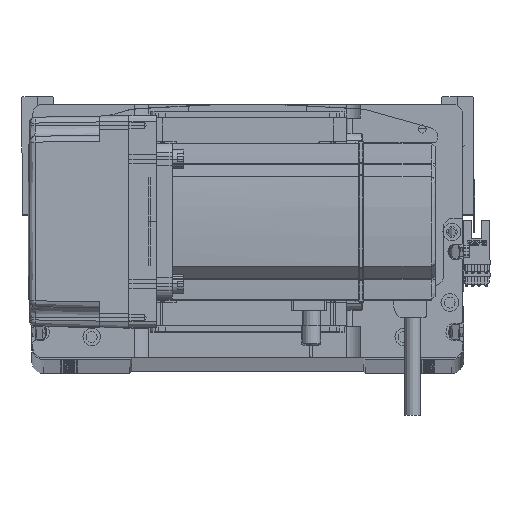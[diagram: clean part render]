
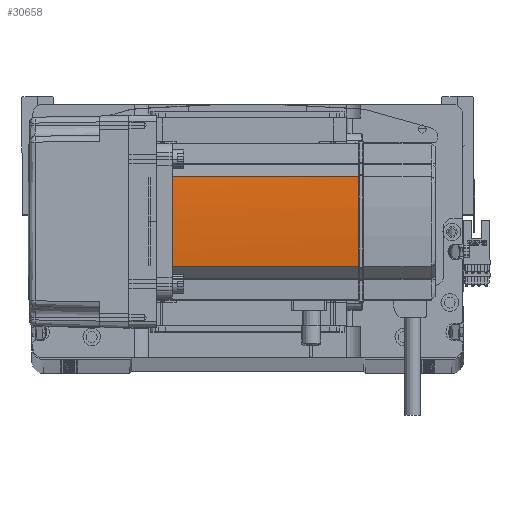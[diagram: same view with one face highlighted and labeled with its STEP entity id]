
A CAD part, top view. The second image highlights one B-rep face of the part: STEP entity #30658.
In plain terms, the highlighted cylindrical face has radius 270 mm (diameter 540 mm), a partial arc.
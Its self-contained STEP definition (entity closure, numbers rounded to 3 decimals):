
#513 = EDGE_CURVE ( 'NONE', #28971, #24461, #48217, .T. ) ;
#970 = LINE ( 'NONE', #1439, #46811 ) ;
#1026 = DIRECTION ( 'NONE',  ( 0., 0., -1. ) ) ;
#1439 = CARTESIAN_POINT ( 'NONE',  ( 39.042, -22.724, 58. ) ) ;
#2355 = CIRCLE ( 'NONE', #29261, 270. ) ;
#3759 = DIRECTION ( 'NONE',  ( -1., 0., 0. ) ) ;
#4709 = CARTESIAN_POINT ( 'NONE',  ( 40., 0.042, 134. ) ) ;
#4720 = EDGE_CURVE ( 'NONE', #28971, #29778, #23576, .T. ) ;
#5696 = VERTEX_POINT ( 'NONE', #11257 ) ;
#7062 = ORIENTED_EDGE ( 'NONE', *, *, #58252, .T. ) ;
#7622 = B_SPLINE_CURVE_WITH_KNOTS ( 'NONE', 3,
 ( #57391, #14138, #4709, #28596 ),
 .UNSPECIFIED., .F., .F.,
 ( 4, 4 ),
 ( 0., 1. ),
 .UNSPECIFIED. ) ;
#8329 = DIRECTION ( 'NONE',  ( 0., 0., -1. ) ) ;
#9104 = VERTEX_POINT ( 'NONE', #59427 ) ;
#9176 = EDGE_LOOP ( 'NONE', ( #9714, #20395, #27117, #7062, #52888, #16604 ) ) ;
#9714 = ORIENTED_EDGE ( 'NONE', *, *, #38607, .T. ) ;
#10992 = AXIS2_PLACEMENT_3D ( 'NONE', #12559, #8329, #32065 ) ;
#11257 = CARTESIAN_POINT ( 'NONE',  ( 39.042, -22.724, 134. ) ) ;
#11348 = EDGE_CURVE ( 'NONE', #19099, #9104, #7622, .T. ) ;
#11572 = VECTOR ( 'NONE', #27970, 1000. ) ;
#12559 = CARTESIAN_POINT ( 'NONE',  ( -230., 0., 134. ) ) ;
#13856 = CARTESIAN_POINT ( 'NONE',  ( 40., -0.127, 134. ) ) ;
#14138 = CARTESIAN_POINT ( 'NONE',  ( 40., -0.042, 134. ) ) ;
#16604 = ORIENTED_EDGE ( 'NONE', *, *, #33966, .T. ) ;
#16882 = DIRECTION ( 'NONE',  ( 0., 0., -1. ) ) ;
#19099 = VERTEX_POINT ( 'NONE', #13856 ) ;
#20238 = CARTESIAN_POINT ( 'NONE',  ( 39.042, 22.724, 39. ) ) ;
#20395 = ORIENTED_EDGE ( 'NONE', *, *, #513, .F. ) ;
#23576 = LINE ( 'NONE', #56779, #11572 ) ;
#24461 = VERTEX_POINT ( 'NONE', #48221 ) ;
#26947 = CARTESIAN_POINT ( 'NONE',  ( -230., 0., 39. ) ) ;
#27117 = ORIENTED_EDGE ( 'NONE', *, *, #4720, .T. ) ;
#27970 = DIRECTION ( 'NONE',  ( 0., 0., 1. ) ) ;
#28596 = CARTESIAN_POINT ( 'NONE',  ( 40., 0.127, 134. ) ) ;
#28971 = VERTEX_POINT ( 'NONE', #20238 ) ;
#29261 = AXIS2_PLACEMENT_3D ( 'NONE', #29422, #39161, #43984 ) ;
#29422 = CARTESIAN_POINT ( 'NONE',  ( -230., 0., 134. ) ) ;
#29778 = VERTEX_POINT ( 'NONE', #47426 ) ;
#30658 = ADVANCED_FACE ( 'NONE', ( #46153 ), #46084, .T. ) ;
#31535 = CIRCLE ( 'NONE', #10992, 270. ) ;
#32065 = DIRECTION ( 'NONE',  ( -1., 0., 0. ) ) ;
#33966 = EDGE_CURVE ( 'NONE', #19099, #5696, #31535, .T. ) ;
#38607 = EDGE_CURVE ( 'NONE', #5696, #24461, #970, .T. ) ;
#39161 = DIRECTION ( 'NONE',  ( 0., 0., -1. ) ) ;
#43984 = DIRECTION ( 'NONE',  ( -1., 0., 0. ) ) ;
#44925 = AXIS2_PLACEMENT_3D ( 'NONE', #26947, #16882, #55749 ) ;
#46084 = CYLINDRICAL_SURFACE ( 'NONE', #53560, 270. ) ;
#46153 = FACE_OUTER_BOUND ( 'NONE', #9176, .T. ) ;
#46811 = VECTOR ( 'NONE', #1026, 1000. ) ;
#47426 = CARTESIAN_POINT ( 'NONE',  ( 39.042, 22.724, 134. ) ) ;
#48217 = CIRCLE ( 'NONE', #44925, 270. ) ;
#48221 = CARTESIAN_POINT ( 'NONE',  ( 39.042, -22.724, 39. ) ) ;
#51233 = CARTESIAN_POINT ( 'NONE',  ( -230., 0., 58. ) ) ;
#52888 = ORIENTED_EDGE ( 'NONE', *, *, #11348, .F. ) ;
#53560 = AXIS2_PLACEMENT_3D ( 'NONE', #51233, #55865, #3759 ) ;
#55749 = DIRECTION ( 'NONE',  ( -1., 0., 0. ) ) ;
#55865 = DIRECTION ( 'NONE',  ( 0., 0., -1. ) ) ;
#56779 = CARTESIAN_POINT ( 'NONE',  ( 39.042, 22.724, 58. ) ) ;
#57391 = CARTESIAN_POINT ( 'NONE',  ( 40., -0.127, 134. ) ) ;
#58252 = EDGE_CURVE ( 'NONE', #29778, #9104, #2355, .T. ) ;
#59427 = CARTESIAN_POINT ( 'NONE',  ( 40., 0.127, 134. ) ) ;
